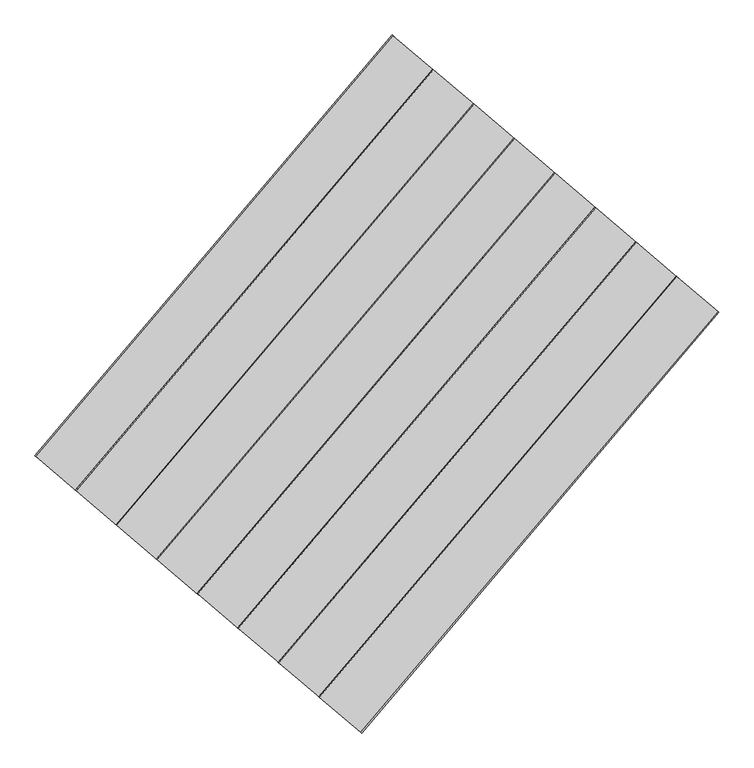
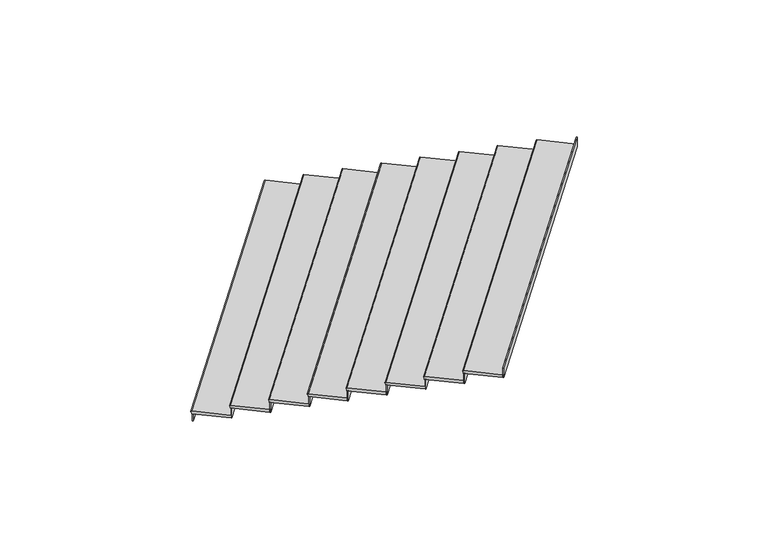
"""IFC4 building model written with IfcOpenShell, lengths in millimetres: stair flight geometry, Wood Steps with 50 mm Tread 20 mm Nosing 13 mm Riser."""

from ifc_helpers import new_model, si_unit, frame, origin, place, context, project, spatial, circle_curve, ellipse_curve, faceted_brep, source, transform, mapped, element, save
from ifc_brep_helpers import plane_surface, cylinder_surface, advanced_brep


def stair_flight_0974b19c(model_context):
    return source(origin(), model_context, "Body", "SolidModel", [
        advanced_brep(
        [(808921.3849289, 44275.3045676, 1859.2941176), (808921.3849289, 44275.3045676, 1879.2941176), (812873.2285531, 48928.1488693, 1879.2941176), (812873.2285531, 48928.1488693, 1859.2941176), (813329.3299149, 48540.764048, 1879.2941176), (809377.4819856, 43887.9146776, 1879.2941176), (812873.2285531, 48928.1488693, 1829.2941176), (813329.3299149, 48540.764048, 1829.2941176), (809377.4819856, 43887.9146776, 1829.2941176), (808921.3849289, 44275.3045676, 1829.2941176)],
        [
            (0, 1, ellipse_curve(frame((808921.3849289, 44275.3045676, 1869.2941176), z_axis=(0.6473644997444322, 0.7621805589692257, 0.0), x_axis=(0.7621805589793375, -0.6473644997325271, 0.0)), 10.0, 10.0)),
            (1, 2),
            (2, 3, circle_curve(frame((812873.2285531, 48928.1488693, 1869.2941176), z_axis=(-0.6473560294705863, -0.7621877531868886, 0.0), x_axis=(0.7621877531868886, -0.6473560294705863, 0.0)), 10.0)),
            (3, 0),
            (4, 2),
            (1, 5),
            (5, 4),
            (6, 7),
            (7, 8),
            (8, 9),
            (9, 6),
            (4, 7),
            (6, 3),
            (9, 0),
            (8, 5),
        ],
        [
            cylinder_surface(frame((808921.3849289, 44275.3045676, 1869.2941176), z_axis=(-0.6473560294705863, -0.7621877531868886, 0.0), x_axis=(0.7621877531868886, -0.6473560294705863, 0.0)), 10.0),
            plane_surface(frame((805986.3459959, 54777.4490307, 1879.2941176), z_axis=(0.0, 0.0, 1.0000000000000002), x_axis=(-0.7621877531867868, 0.6473560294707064, 0.0))),
            plane_surface(frame((805986.3459959, 54777.4490307, 1829.2941176), z_axis=(0.0, 0.0, -1.0000000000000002), x_axis=(0.7621877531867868, -0.6473560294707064, 0.0))),
            plane_surface(frame((813329.3299149, 48540.764048, 1879.2941176), z_axis=(0.6473560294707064, 0.7621877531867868, 0.0), x_axis=(0.0, 0.0, -1.0))),
            plane_surface(frame((812873.2285531, 48928.1488693, 1879.2941176), z_axis=(-0.7621877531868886, 0.6473560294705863, 0.0), x_axis=(0.0, 0.0, -1.0))),
            plane_surface(frame((808921.3849289, 44275.3045676, 1879.2941176), z_axis=(-0.6473644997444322, -0.7621805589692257, 0.0), x_axis=(0.0, 0.0, -1.0))),
            plane_surface(frame((809377.4819856, 43887.9146776, 1879.2941176), z_axis=(0.7621877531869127, -0.647356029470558, 0.0), x_axis=(0.0, 0.0, -1.0))),
        ],
        [
            (0, [[1, 2, 3, 4]]),
            (1, [[5, -2, 6, 7]]),
            (2, [[8, 9, 10, 11]]),
            (3, [[-5, 12, -8, 13, -3]]),
            (4, [[-11, 14, -4, -13]]),
            (5, [[-6, -1, -14, -10, 15]]),
            (6, [[-7, -15, -9, -12]]),
        ],
    ),
        faceted_brep([(808929.0067345, 44268.8309226, 1829.2941176), (808929.0067345, 44268.8309226, 1700.0), (808938.5339915, 44260.7388664, 1700.0), (808938.5339915, 44260.7388664, 1829.2941176), (812880.8504307, 48921.675309, 1829.2941176), (812890.3777776, 48913.5833587, 1829.2941176), (812890.3777776, 48913.5833587, 1700.0), (812880.8504307, 48921.675309, 1700.0)], [[[0, 1, 2, 3]], [[4, 5, 6, 7]], [[1, 0, 4, 7]], [[2, 1, 7, 6]], [[3, 2, 6, 5]], [[0, 3, 5, 4]]]),
        faceted_brep([(809377.4819856, 43887.9146776, 2008.5882353), (809377.4819856, 43887.9146776, 1829.2941176), (809387.0092426, 43879.8226213, 1829.2941176), (809387.0092426, 43879.8226213, 2008.5882353), (813329.3299149, 48540.764048, 2008.5882353), (813338.8572618, 48532.6720976, 2008.5882353), (813338.8572618, 48532.6720976, 1829.2941176), (813329.3299149, 48540.764048, 1829.2941176)], [[[0, 1, 2, 3]], [[4, 5, 6, 7]], [[1, 0, 4, 7]], [[2, 1, 7, 6]], [[3, 2, 6, 5]], [[0, 3, 5, 4]]]),
        advanced_brep(
        [(813777.8093992, 48159.8527869, 2058.5882353), (813321.7080374, 48547.2376083, 2058.5882353), (809369.86018, 43894.3883226, 2058.5882353), (809825.9572367, 43506.9984325, 2058.5882353), (813321.7080374, 48547.2376083, 2008.5882353), (813777.8093992, 48159.8527869, 2008.5882353), (809825.9572367, 43506.9984325, 2008.5882353), (809369.86018, 43894.3883226, 2008.5882353), (813321.7080374, 48547.2376083, 2038.5882353), (809369.86018, 43894.3883226, 2038.5882353)],
        [
            (0, 1),
            (1, 2),
            (2, 3),
            (3, 0),
            (4, 5),
            (5, 6),
            (6, 7),
            (7, 4),
            (0, 5),
            (4, 8),
            (8, 1, circle_curve(frame((813321.7080374, 48547.2376083, 2048.5882353), z_axis=(0.647356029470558, 0.7621877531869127, 0.0), x_axis=(0.7621877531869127, -0.647356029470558, 0.0)), 10.0)),
            (7, 9),
            (9, 8),
            (2, 9, ellipse_curve(frame((809369.86018, 43894.3883226, 2048.5882353), z_axis=(-0.6473644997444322, -0.7621805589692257, 0.0), x_axis=(0.7621805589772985, -0.6473644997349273, 0.0)), 10.0, 10.0)),
            (6, 3),
        ],
        [
            plane_surface(frame((805986.3459959, 54777.4490307, 2058.5882353), z_axis=(0.0, 0.0, 1.0000000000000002), x_axis=(-0.7621877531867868, 0.6473560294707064, 0.0))),
            plane_surface(frame((805986.3459959, 54777.4490307, 2008.5882353), z_axis=(0.0, 0.0, -1.0000000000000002), x_axis=(0.7621877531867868, -0.6473560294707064, 0.0))),
            plane_surface(frame((813777.8093992, 48159.8527869, 2058.5882353), z_axis=(0.6473560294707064, 0.7621877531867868, 0.0), x_axis=(0.0, 0.0, -1.0))),
            plane_surface(frame((813321.7080374, 48547.2376083, 2058.5882353), z_axis=(-0.7621877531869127, 0.647356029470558, 0.0), x_axis=(0.0, 0.0, -1.0))),
            plane_surface(frame((809369.86018, 43894.3883226, 2058.5882353), z_axis=(-0.6473644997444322, -0.7621805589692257, 0.0), x_axis=(0.0, 0.0, -1.0))),
            plane_surface(frame((809825.9572367, 43506.9984325, 2058.5882353), z_axis=(0.7621877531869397, -0.6473560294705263, 0.0), x_axis=(0.0, 0.0, -1.0))),
            cylinder_surface(frame((809369.86018, 43894.3883226, 2048.5882353), z_axis=(-0.647356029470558, -0.7621877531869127, 0.0), x_axis=(0.7621877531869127, -0.647356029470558, 0.0)), 10.0),
        ],
        [
            (0, [[1, 2, 3, 4]]),
            (1, [[5, 6, 7, 8]]),
            (2, [[-1, 9, -5, 10, 11]]),
            (3, [[-8, 12, 13, -10]]),
            (4, [[-3, 14, -12, -7, 15]]),
            (5, [[-4, -15, -6, -9]]),
            (6, [[-14, -2, -11, -13]]),
        ],
    ),
        faceted_brep([(809825.9572367, 43506.9984325, 2187.8823529), (809825.9572367, 43506.9984325, 2008.5882353), (809835.4844937, 43498.9063762, 2008.5882353), (809835.4844937, 43498.9063762, 2187.8823529), (813777.8093992, 48159.8527869, 2187.8823529), (813787.3367461, 48151.7608366, 2187.8823529), (813787.3367461, 48151.7608366, 2008.5882353), (813777.8093992, 48159.8527869, 2008.5882353)], [[[0, 1, 2, 3]], [[4, 5, 6, 7]], [[1, 0, 4, 7]], [[2, 1, 7, 6]], [[3, 2, 6, 5]], [[0, 3, 5, 4]]]),
        advanced_brep(
        [(814226.2888834, 47778.9415259, 2237.8823529), (813770.1875216, 48166.3263472, 2237.8823529), (809818.3354312, 43513.4720775, 2237.8823529), (810274.4324879, 43126.0821874, 2237.8823529), (813770.1875216, 48166.3263472, 2187.8823529), (814226.2888834, 47778.9415259, 2187.8823529), (810274.4324879, 43126.0821874, 2187.8823529), (809818.3354312, 43513.4720775, 2187.8823529), (813770.1875216, 48166.3263472, 2217.8823529), (809818.3354312, 43513.4720775, 2217.8823529)],
        [
            (0, 1),
            (1, 2),
            (2, 3),
            (3, 0),
            (4, 5),
            (5, 6),
            (6, 7),
            (7, 4),
            (0, 5),
            (4, 8),
            (8, 1, circle_curve(frame((813770.1875216, 48166.3263472, 2227.8823529), z_axis=(0.6473560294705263, 0.7621877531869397, 0.0), x_axis=(0.7621877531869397, -0.6473560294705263, 0.0)), 10.0)),
            (7, 9),
            (9, 8),
            (2, 9, ellipse_curve(frame((809818.3354312, 43513.4720775, 2227.8823529), z_axis=(-0.6473644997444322, -0.7621805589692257, 0.0), x_axis=(0.762180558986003, -0.647364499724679, 0.0)), 10.0, 10.0)),
            (6, 3),
        ],
        [
            plane_surface(frame((805986.3459959, 54777.4490307, 2237.8823529), z_axis=(0.0, 0.0, 1.0000000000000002), x_axis=(-0.7621877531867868, 0.6473560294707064, 0.0))),
            plane_surface(frame((805986.3459959, 54777.4490307, 2187.8823529), z_axis=(0.0, 0.0, -1.0000000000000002), x_axis=(0.7621877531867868, -0.6473560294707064, 0.0))),
            plane_surface(frame((814226.2888834, 47778.9415259, 2237.8823529), z_axis=(0.6473560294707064, 0.7621877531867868, 0.0), x_axis=(0.0, 0.0, -1.0))),
            plane_surface(frame((813770.1875216, 48166.3263472, 2237.8823529), z_axis=(-0.7621877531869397, 0.6473560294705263, 0.0), x_axis=(0.0, 0.0, -1.0))),
            plane_surface(frame((809818.3354312, 43513.4720775, 2237.8823529), z_axis=(-0.6473644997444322, -0.7621805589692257, 0.0), x_axis=(0.0, 0.0, -1.0))),
            plane_surface(frame((810274.4324879, 43126.0821874, 2237.8823529), z_axis=(0.7621877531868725, -0.6473560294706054, 0.0), x_axis=(0.0, 0.0, -1.0))),
            cylinder_surface(frame((809818.3354312, 43513.4720775, 2227.8823529), z_axis=(-0.6473560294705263, -0.7621877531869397, 0.0), x_axis=(0.7621877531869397, -0.6473560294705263, 0.0)), 10.0),
        ],
        [
            (0, [[1, 2, 3, 4]]),
            (1, [[5, 6, 7, 8]]),
            (2, [[-1, 9, -5, 10, 11]]),
            (3, [[-8, 12, 13, -10]]),
            (4, [[-3, 14, -12, -7, 15]]),
            (5, [[-4, -15, -6, -9]]),
            (6, [[-14, -2, -11, -13]]),
        ],
    ),
        faceted_brep([(810274.4324879, 43126.0821874, 2367.1764706), (810274.4324879, 43126.0821874, 2187.8823529), (810283.9597449, 43117.9901312, 2187.8823529), (810283.9597449, 43117.9901312, 2367.1764706), (814226.2888834, 47778.9415259, 2367.1764706), (814235.8162303, 47770.8495755, 2367.1764706), (814235.8162303, 47770.8495755, 2187.8823529), (814226.2888834, 47778.9415259, 2187.8823529)], [[[0, 1, 2, 3]], [[4, 5, 6, 7]], [[1, 0, 4, 7]], [[2, 1, 7, 6]], [[3, 2, 6, 5]], [[0, 3, 5, 4]]]),
        advanced_brep(
        [(814674.7683677, 47398.0302648, 2417.1764706), (814218.6670059, 47785.4150862, 2417.1764706), (810266.8106823, 43132.5558324, 2417.1764706), (810722.907739, 42745.1659423, 2417.1764706), (814218.6670059, 47785.4150862, 2367.1764706), (814674.7683677, 47398.0302648, 2367.1764706), (810722.907739, 42745.1659423, 2367.1764706), (810266.8106823, 43132.5558324, 2367.1764706), (814218.6670059, 47785.4150862, 2397.1764706), (810266.8106823, 43132.5558324, 2397.1764706)],
        [
            (0, 1),
            (1, 2),
            (2, 3),
            (3, 0),
            (4, 5),
            (5, 6),
            (6, 7),
            (7, 4),
            (0, 5),
            (4, 8),
            (8, 1, circle_curve(frame((814218.6670059, 47785.4150862, 2407.1764706), z_axis=(0.6473560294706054, 0.7621877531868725, 0.0), x_axis=(0.7621877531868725, -0.6473560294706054, 0.0)), 10.0)),
            (7, 9),
            (9, 8),
            (2, 9, ellipse_curve(frame((810266.8106823, 43132.5558324, 2407.1764706), z_axis=(-0.6473644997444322, -0.7621805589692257, 0.0), x_axis=(0.7621805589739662, -0.6473644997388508, 0.0)), 10.0, 10.0)),
            (6, 3),
        ],
        [
            plane_surface(frame((805986.3459959, 54777.4490307, 2417.1764706), z_axis=(0.0, 0.0, 1.0000000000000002), x_axis=(-0.7621877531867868, 0.6473560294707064, 0.0))),
            plane_surface(frame((805986.3459959, 54777.4490307, 2367.1764706), z_axis=(0.0, 0.0, -1.0000000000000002), x_axis=(0.7621877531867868, -0.6473560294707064, 0.0))),
            plane_surface(frame((814674.7683677, 47398.0302648, 2417.1764706), z_axis=(0.6473560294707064, 0.7621877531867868, 0.0), x_axis=(0.0, 0.0, -1.0))),
            plane_surface(frame((814218.6670059, 47785.4150862, 2417.1764706), z_axis=(-0.7621877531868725, 0.6473560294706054, 0.0), x_axis=(0.0, 0.0, -1.0))),
            plane_surface(frame((810266.8106823, 43132.5558324, 2417.1764706), z_axis=(-0.6473644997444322, -0.7621805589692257, 0.0), x_axis=(0.0, 0.0, -1.0))),
            plane_surface(frame((810722.907739, 42745.1659423, 2417.1764706), z_axis=(0.762187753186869, -0.6473560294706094, 0.0), x_axis=(0.0, 0.0, -1.0))),
            cylinder_surface(frame((810266.8106823, 43132.5558324, 2407.1764706), z_axis=(-0.6473560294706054, -0.7621877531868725, 0.0), x_axis=(0.7621877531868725, -0.6473560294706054, 0.0)), 10.0),
        ],
        [
            (0, [[1, 2, 3, 4]]),
            (1, [[5, 6, 7, 8]]),
            (2, [[-1, 9, -5, 10, 11]]),
            (3, [[-8, 12, 13, -10]]),
            (4, [[-3, 14, -12, -7, 15]]),
            (5, [[-4, -15, -6, -9]]),
            (6, [[-14, -2, -11, -13]]),
        ],
    ),
        faceted_brep([(810722.907739, 42745.1659423, 2546.4705882), (810722.907739, 42745.1659423, 2367.1764706), (810732.434996, 42737.0738861, 2367.1764706), (810732.434996, 42737.0738861, 2546.4705882), (814674.7683677, 47398.0302648, 2546.4705882), (814684.2957146, 47389.9383145, 2546.4705882), (814684.2957146, 47389.9383145, 2367.1764706), (814674.7683677, 47398.0302648, 2367.1764706)], [[[0, 1, 2, 3]], [[4, 5, 6, 7]], [[1, 0, 4, 7]], [[2, 1, 7, 6]], [[3, 2, 6, 5]], [[0, 3, 5, 4]]]),
        advanced_brep(
        [(815123.2478519, 47017.1190038, 2596.4705882), (814667.1464901, 47404.5038251, 2596.4705882), (810715.2859334, 42751.6395873, 2596.4705882), (811171.3829901, 42364.2496973, 2596.4705882), (814667.1464901, 47404.5038251, 2546.4705882), (815123.2478519, 47017.1190038, 2546.4705882), (811171.3829901, 42364.2496973, 2546.4705882), (810715.2859334, 42751.6395873, 2546.4705882), (814667.1464901, 47404.5038251, 2576.4705882), (810715.2859334, 42751.6395873, 2576.4705882)],
        [
            (0, 1),
            (1, 2),
            (2, 3),
            (3, 0),
            (4, 5),
            (5, 6),
            (6, 7),
            (7, 4),
            (0, 5),
            (4, 8),
            (8, 1, circle_curve(frame((814667.1464901, 47404.5038251, 2586.4705882), z_axis=(0.6473560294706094, 0.762187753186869, 0.0), x_axis=(0.762187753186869, -0.6473560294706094, 0.0)), 10.0)),
            (7, 9),
            (9, 8),
            (2, 9, ellipse_curve(frame((810715.2859334, 42751.6395873, 2586.4705882), z_axis=(-0.6473644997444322, -0.7621805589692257, 0.0), x_axis=(0.7621805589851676, -0.6473644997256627, 0.0)), 10.0, 10.0)),
            (6, 3),
        ],
        [
            plane_surface(frame((805986.3459959, 54777.4490307, 2596.4705882), z_axis=(0.0, 0.0, 1.0000000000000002), x_axis=(-0.7621877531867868, 0.6473560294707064, 0.0))),
            plane_surface(frame((805986.3459959, 54777.4490307, 2546.4705882), z_axis=(0.0, 0.0, -1.0000000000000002), x_axis=(0.7621877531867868, -0.6473560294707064, 0.0))),
            plane_surface(frame((815123.2478519, 47017.1190038, 2596.4705882), z_axis=(0.6473560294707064, 0.7621877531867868, 0.0), x_axis=(0.0, 0.0, -1.0))),
            plane_surface(frame((814667.1464901, 47404.5038251, 2596.4705882), z_axis=(-0.762187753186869, 0.6473560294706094, 0.0), x_axis=(0.0, 0.0, -1.0))),
            plane_surface(frame((810715.2859334, 42751.6395873, 2596.4705882), z_axis=(-0.6473644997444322, -0.7621805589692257, 0.0), x_axis=(0.0, 0.0, -1.0))),
            plane_surface(frame((811171.3829901, 42364.2496973, 2596.4705882), z_axis=(0.7621877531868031, -0.6473560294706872, 0.0), x_axis=(0.0, 0.0, -1.0))),
            cylinder_surface(frame((810715.2859334, 42751.6395873, 2586.4705882), z_axis=(-0.6473560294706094, -0.762187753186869, 0.0), x_axis=(0.762187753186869, -0.6473560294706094, 0.0)), 10.0),
        ],
        [
            (0, [[1, 2, 3, 4]]),
            (1, [[5, 6, 7, 8]]),
            (2, [[-1, 9, -5, 10, 11]]),
            (3, [[-8, 12, 13, -10]]),
            (4, [[-3, 14, -12, -7, 15]]),
            (5, [[-4, -15, -6, -9]]),
            (6, [[-14, -2, -11, -13]]),
        ],
    ),
        faceted_brep([(811171.3829901, 42364.2496973, 2725.7647059), (811171.3829901, 42364.2496973, 2546.4705882), (811180.9102471, 42356.157641, 2546.4705882), (811180.9102471, 42356.157641, 2725.7647059), (815123.2478519, 47017.1190038, 2725.7647059), (815132.7751988, 47009.0270534, 2725.7647059), (815132.7751988, 47009.0270534, 2546.4705882), (815123.2478519, 47017.1190038, 2546.4705882)], [[[0, 1, 2, 3]], [[4, 5, 6, 7]], [[1, 0, 4, 7]], [[2, 1, 7, 6]], [[3, 2, 6, 5]], [[0, 3, 5, 4]]]),
        advanced_brep(
        [(815571.7273362, 46636.2077427, 2775.7647059), (815115.6259744, 47023.5925641, 2775.7647059), (811163.7611845, 42370.7233423, 2775.7647059), (811619.8582412, 41983.3334522, 2775.7647059), (815115.6259744, 47023.5925641, 2725.7647059), (815571.7273362, 46636.2077427, 2725.7647059), (811619.8582412, 41983.3334522, 2725.7647059), (811163.7611845, 42370.7233423, 2725.7647059), (815115.6259744, 47023.5925641, 2755.7647059), (811163.7611845, 42370.7233423, 2755.7647059)],
        [
            (0, 1),
            (1, 2),
            (2, 3),
            (3, 0),
            (4, 5),
            (5, 6),
            (6, 7),
            (7, 4),
            (0, 5),
            (4, 8),
            (8, 1, circle_curve(frame((815115.6259744, 47023.5925641, 2765.7647059), z_axis=(0.6473560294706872, 0.7621877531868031, 0.0), x_axis=(0.7621877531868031, -0.6473560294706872, 0.0)), 10.0)),
            (7, 9),
            (9, 8),
            (2, 9, ellipse_curve(frame((811163.7611845, 42370.7233423, 2765.7647059), z_axis=(-0.6473644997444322, -0.7621805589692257, 0.0), x_axis=(0.7621805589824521, -0.6473644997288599, 0.0)), 10.0, 10.0)),
            (6, 3),
        ],
        [
            plane_surface(frame((805986.3459959, 54777.4490307, 2775.7647059), z_axis=(0.0, 0.0, 1.0000000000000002), x_axis=(-0.7621877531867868, 0.6473560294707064, 0.0))),
            plane_surface(frame((805986.3459959, 54777.4490307, 2725.7647059), z_axis=(0.0, 0.0, -1.0000000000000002), x_axis=(0.7621877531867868, -0.6473560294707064, 0.0))),
            plane_surface(frame((815571.7273362, 46636.2077427, 2775.7647059), z_axis=(0.6473560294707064, 0.7621877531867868, 0.0), x_axis=(0.0, 0.0, -1.0))),
            plane_surface(frame((815115.6259744, 47023.5925641, 2775.7647059), z_axis=(-0.7621877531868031, 0.6473560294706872, 0.0), x_axis=(0.0, 0.0, -1.0))),
            plane_surface(frame((811163.7611845, 42370.7233423, 2775.7647059), z_axis=(-0.6473644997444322, -0.7621805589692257, 0.0), x_axis=(0.0, 0.0, -1.0))),
            plane_surface(frame((811619.8582412, 41983.3334522, 2775.7647059), z_axis=(0.7621877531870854, -0.6473560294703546, 0.0), x_axis=(0.0, 0.0, -1.0))),
            cylinder_surface(frame((811163.7611845, 42370.7233423, 2765.7647059), z_axis=(-0.6473560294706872, -0.7621877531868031, 0.0), x_axis=(0.7621877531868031, -0.6473560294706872, 0.0)), 10.0),
        ],
        [
            (0, [[1, 2, 3, 4]]),
            (1, [[5, 6, 7, 8]]),
            (2, [[-1, 9, -5, 10, 11]]),
            (3, [[-8, 12, 13, -10]]),
            (4, [[-3, 14, -12, -7, 15]]),
            (5, [[-4, -15, -6, -9]]),
            (6, [[-14, -2, -11, -13]]),
        ],
    ),
        faceted_brep([(811619.8582412, 41983.3334522, 2905.0588235), (811619.8582412, 41983.3334522, 2725.7647059), (811629.3854982, 41975.2413959, 2725.7647059), (811629.3854982, 41975.2413959, 2905.0588235), (815571.7273362, 46636.2077427, 2905.0588235), (815581.2546831, 46628.1157924, 2905.0588235), (815581.2546831, 46628.1157924, 2725.7647059), (815571.7273362, 46636.2077427, 2725.7647059)], [[[0, 1, 2, 3]], [[4, 5, 6, 7]], [[1, 0, 4, 7]], [[2, 1, 7, 6]], [[3, 2, 6, 5]], [[0, 3, 5, 4]]]),
        advanced_brep(
        [(816020.2068204, 46255.2964817, 2955.0588235), (815564.1054586, 46642.681303, 2955.0588235), (811612.2364357, 41989.8070972, 2955.0588235), (812068.3334924, 41602.4172071, 2955.0588235), (815564.1054586, 46642.681303, 2905.0588235), (816020.2068204, 46255.2964817, 2905.0588235), (812068.3334924, 41602.4172071, 2905.0588235), (811612.2364357, 41989.8070972, 2905.0588235), (815564.1054586, 46642.681303, 2935.0588235), (811612.2364357, 41989.8070972, 2935.0588235)],
        [
            (0, 1),
            (1, 2),
            (2, 3),
            (3, 0),
            (4, 5),
            (5, 6),
            (6, 7),
            (7, 4),
            (0, 5),
            (4, 8),
            (8, 1, circle_curve(frame((815564.1054586, 46642.681303, 2945.0588235), z_axis=(0.6473560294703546, 0.7621877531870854, 0.0), x_axis=(0.7621877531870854, -0.6473560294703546, 0.0)), 10.0)),
            (7, 9),
            (9, 8),
            (2, 9, ellipse_curve(frame((811612.2364357, 41989.8070972, 2945.0588235), z_axis=(-0.6473644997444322, -0.7621805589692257, 0.0), x_axis=(0.7621805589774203, -0.647364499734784, 0.0)), 10.0, 10.0)),
            (6, 3),
        ],
        [
            plane_surface(frame((805986.3459959, 54777.4490307, 2955.0588235), z_axis=(0.0, 0.0, 1.0000000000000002), x_axis=(-0.7621877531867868, 0.6473560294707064, 0.0))),
            plane_surface(frame((805986.3459959, 54777.4490307, 2905.0588235), z_axis=(0.0, 0.0, -1.0000000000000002), x_axis=(0.7621877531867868, -0.6473560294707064, 0.0))),
            plane_surface(frame((816020.2068204, 46255.2964817, 2955.0588235), z_axis=(0.6473560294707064, 0.7621877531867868, 0.0), x_axis=(0.0, 0.0, -1.0))),
            plane_surface(frame((815564.1054586, 46642.681303, 2955.0588235), z_axis=(-0.7621877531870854, 0.6473560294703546, 0.0), x_axis=(0.0, 0.0, -1.0))),
            plane_surface(frame((811612.2364357, 41989.8070972, 2955.0588235), z_axis=(-0.6473644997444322, -0.7621805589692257, 0.0), x_axis=(0.0, 0.0, -1.0))),
            plane_surface(frame((812068.3334924, 41602.4172071, 2955.0588235), z_axis=(0.7621877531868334, -0.6473560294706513, 0.0), x_axis=(0.0, 0.0, -1.0))),
            cylinder_surface(frame((811612.2364357, 41989.8070972, 2945.0588235), z_axis=(-0.6473560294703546, -0.7621877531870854, 0.0), x_axis=(0.7621877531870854, -0.6473560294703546, 0.0)), 10.0),
        ],
        [
            (0, [[1, 2, 3, 4]]),
            (1, [[5, 6, 7, 8]]),
            (2, [[-1, 9, -5, 10, 11]]),
            (3, [[-8, 12, 13, -10]]),
            (4, [[-3, 14, -12, -7, 15]]),
            (5, [[-4, -15, -6, -9]]),
            (6, [[-14, -2, -11, -13]]),
        ],
    ),
        faceted_brep([(812068.3334924, 41602.4172071, 3084.3529412), (812068.3334924, 41602.4172071, 2905.0588235), (812077.8607494, 41594.3251509, 2905.0588235), (812077.8607494, 41594.3251509, 3084.3529412), (816020.2068204, 46255.2964817, 3084.3529412), (816029.7341673, 46247.2045313, 3084.3529412), (816029.7341673, 46247.2045313, 2905.0588235), (816020.2068204, 46255.2964817, 2905.0588235)], [[[0, 1, 2, 3]], [[4, 5, 6, 7]], [[1, 0, 4, 7]], [[2, 1, 7, 6]], [[3, 2, 6, 5]], [[0, 3, 5, 4]]]),
        faceted_brep([(812516.8087435, 41221.500962, 3263.6470588), (812516.8087435, 41221.500962, 3084.3529412), (812526.3360005, 41213.4089058, 3084.3529412), (812526.3360005, 41213.4089058, 3263.6470588), (816468.6863047, 45874.3852206, 3263.6470588), (816478.2136516, 45866.2932702, 3263.6470588), (816478.2136516, 45866.2932702, 3084.3529412), (816468.6863047, 45874.3852206, 3084.3529412)], [[[0, 1, 2, 3]], [[4, 5, 6, 7]], [[1, 0, 4, 7]], [[2, 1, 7, 6]], [[3, 2, 6, 5]], [[0, 3, 5, 4]]]),
        advanced_brep(
        [(816468.6863047, 45874.3852206, 3134.3529412), (816012.5849429, 46261.770042, 3134.3529412), (812060.7116868, 41608.8908521, 3134.3529412), (812516.8087435, 41221.500962, 3134.3529412), (816012.5849429, 46261.770042, 3084.3529412), (816468.6863047, 45874.3852206, 3084.3529412), (812516.8087435, 41221.500962, 3084.3529412), (812060.7116868, 41608.8908521, 3084.3529412), (816012.5849429, 46261.770042, 3114.3529412), (812060.7116868, 41608.8908521, 3114.3529412)],
        [
            (0, 1),
            (1, 2),
            (2, 3),
            (3, 0),
            (4, 5),
            (5, 6),
            (6, 7),
            (7, 4),
            (0, 5),
            (4, 8),
            (8, 1, circle_curve(frame((816012.5849429, 46261.770042, 3124.3529412), z_axis=(0.6473560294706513, 0.7621877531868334, 0.0), x_axis=(0.7621877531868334, -0.6473560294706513, 0.0)), 10.0)),
            (7, 9),
            (9, 8),
            (2, 9, ellipse_curve(frame((812060.7116868, 41608.8908521, 3124.3529412), z_axis=(-0.6473644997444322, -0.7621805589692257, 0.0), x_axis=(0.7621805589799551, -0.6473644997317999, 0.0)), 10.0, 10.0)),
            (6, 3),
        ],
        [
            plane_surface(frame((805986.3459959, 54777.4490307, 3134.3529412), z_axis=(0.0, 0.0, 1.0000000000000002), x_axis=(-0.7621877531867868, 0.6473560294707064, 0.0))),
            plane_surface(frame((805986.3459959, 54777.4490307, 3084.3529412), z_axis=(0.0, 0.0, -1.0000000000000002), x_axis=(0.7621877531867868, -0.6473560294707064, 0.0))),
            plane_surface(frame((816468.6863047, 45874.3852206, 3134.3529412), z_axis=(0.6473560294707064, 0.7621877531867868, 0.0), x_axis=(0.0, 0.0, -1.0))),
            plane_surface(frame((816012.5849429, 46261.770042, 3134.3529412), z_axis=(-0.7621877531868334, 0.6473560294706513, 0.0), x_axis=(0.0, 0.0, -1.0))),
            plane_surface(frame((812060.7116868, 41608.8908521, 3134.3529412), z_axis=(-0.6473644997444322, -0.7621805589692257, 0.0), x_axis=(0.0, 0.0, -1.0))),
            plane_surface(frame((812516.8087435, 41221.500962, 3134.3529412), z_axis=(0.7621877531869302, -0.6473560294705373, 0.0), x_axis=(0.0, 0.0, -1.0))),
            cylinder_surface(frame((812060.7116868, 41608.8908521, 3124.3529412), z_axis=(-0.6473560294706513, -0.7621877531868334, 0.0), x_axis=(0.7621877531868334, -0.6473560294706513, 0.0)), 10.0),
        ],
        [
            (0, [[1, 2, 3, 4]]),
            (1, [[5, 6, 7, 8]]),
            (2, [[-1, 9, -5, 10, 11]]),
            (3, [[-8, 12, 13, -10]]),
            (4, [[-3, 14, -12, -7, 15]]),
            (5, [[-4, -15, -6, -9]]),
            (6, [[-14, -2, -11, -13]]),
        ],
    ),
    ])


if __name__ == "__main__":
    model = new_model("IFC4")
    model_context = context("Model", 3, world=origin())
    ifc_project = project(units=[si_unit("LENGTHUNIT", "METRE", prefix="MILLI")], contexts=[model_context])
    site = spatial("IfcSite", under=ifc_project)
    building = spatial("IfcBuilding", under=site)
    placement = place(None, origin())
    stair_flight_shape = stair_flight_0974b19c(model_context)
    element("IfcStairFlight", 1, ObjectType="Wood Steps with 50 mm Tread 20 mm Nosing 13 mm Riser", at=placement, inside=building, context=model_context, shape_type="MappedRepresentation", body=[
        mapped(stair_flight_shape, transform((0.0, 0.0, 0.0), x_axis=(1.0, 0.0, 0.0), y_axis=(0.0, 1.0, 0.0), z_axis=(0.0, 0.0, 1.0))),
    ])
    save(model, "model.ifc")
